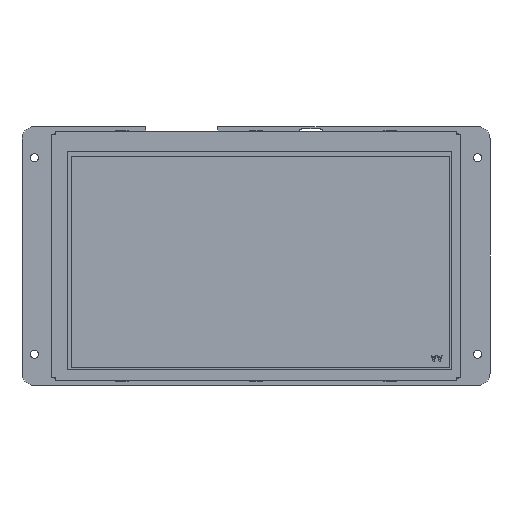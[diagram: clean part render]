
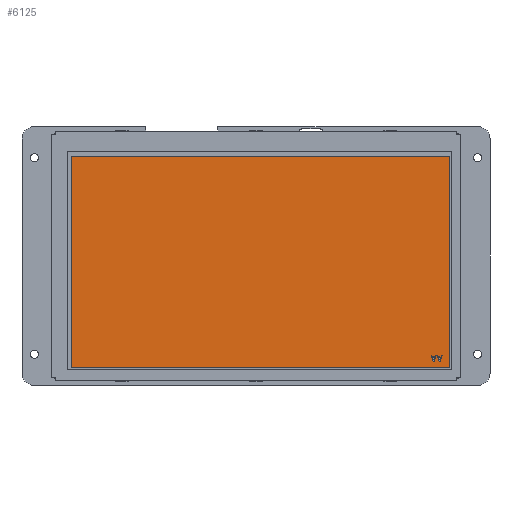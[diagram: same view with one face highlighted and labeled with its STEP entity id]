
A CAD part, front view. The second image highlights one B-rep face of the part: STEP entity #6125.
In plain terms, the highlighted planar face has unit normal (0, -1, 0) as drawn and (0, 0, 1) by its records, which use the part's own axes.
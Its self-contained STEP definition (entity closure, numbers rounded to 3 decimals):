
#5384=DIRECTION('',(0.,-1.,0.));
#5385=VECTOR('',#5384,85.92);
#5386=CARTESIAN_POINT('',(42.271,140.369,-0.5));
#5387=LINE('',#5386,#5385);
#5388=DIRECTION('',(-1.,0.,0.));
#5389=VECTOR('',#5388,154.08);
#5390=CARTESIAN_POINT('',(196.351,140.369,-0.5));
#5391=LINE('',#5390,#5389);
#5392=DIRECTION('',(0.,1.,0.));
#5393=VECTOR('',#5392,85.92);
#5394=CARTESIAN_POINT('',(196.351,54.449,-0.5));
#5395=LINE('',#5394,#5393);
#5396=DIRECTION('',(1.,0.,0.));
#5397=VECTOR('',#5396,154.08);
#5398=CARTESIAN_POINT('',(42.271,54.449,-0.5));
#5399=LINE('',#5398,#5397);
#5400=DIRECTION('',(0.316,-0.949,0.));
#5401=VECTOR('',#5400,2.646);
#5402=CARTESIAN_POINT('',(46.526,137.879,-0.5));
#5403=LINE('',#5402,#5401);
#5404=DIRECTION('',(1.,0.,0.));
#5405=VECTOR('',#5404,0.418);
#5406=CARTESIAN_POINT('',(46.108,137.879,-0.5));
#5407=LINE('',#5406,#5405);
#5408=DIRECTION('',(0.316,0.949,0.));
#5409=VECTOR('',#5408,2.646);
#5410=CARTESIAN_POINT('',(45.271,135.369,-0.5));
#5411=LINE('',#5410,#5409);
#5412=DIRECTION('',(-1.,0.,0.));
#5413=VECTOR('',#5412,0.314);
#5414=CARTESIAN_POINT('',(45.585,135.369,-0.5));
#5415=LINE('',#5414,#5413);
#5416=DIRECTION('',(-0.31,-0.951,0.));
#5417=VECTOR('',#5416,0.674);
#5418=CARTESIAN_POINT('',(45.794,136.01,-0.5));
#5419=LINE('',#5418,#5417);
#5420=DIRECTION('',(-1.,0.,0.));
#5421=VECTOR('',#5420,1.046);
#5422=CARTESIAN_POINT('',(46.84,136.01,-0.5));
#5423=LINE('',#5422,#5421);
#5424=DIRECTION('',(-0.31,0.951,0.));
#5425=VECTOR('',#5424,0.674);
#5426=CARTESIAN_POINT('',(47.049,135.369,-0.5));
#5427=LINE('',#5426,#5425);
#5428=DIRECTION('',(-1.,0.,0.));
#5429=VECTOR('',#5428,0.314);
#5430=CARTESIAN_POINT('',(47.363,135.369,-0.5));
#5431=LINE('',#5430,#5429);
#5444=DIRECTION('',(0.316,-0.949,0.));
#5445=VECTOR('',#5444,2.646);
#5446=CARTESIAN_POINT('',(49.036,137.879,-0.5));
#5447=LINE('',#5446,#5445);
#5448=DIRECTION('',(1.,0.,0.));
#5449=VECTOR('',#5448,0.418);
#5450=CARTESIAN_POINT('',(48.618,137.879,-0.5));
#5451=LINE('',#5450,#5449);
#5452=DIRECTION('',(0.316,0.949,0.));
#5453=VECTOR('',#5452,2.646);
#5454=CARTESIAN_POINT('',(47.781,135.369,-0.5));
#5455=LINE('',#5454,#5453);
#5456=DIRECTION('',(-1.,0.,0.));
#5457=VECTOR('',#5456,0.314);
#5458=CARTESIAN_POINT('',(48.095,135.369,-0.5));
#5459=LINE('',#5458,#5457);
#5460=DIRECTION('',(-0.31,-0.951,0.));
#5461=VECTOR('',#5460,0.674);
#5462=CARTESIAN_POINT('',(48.304,136.01,-0.5));
#5463=LINE('',#5462,#5461);
#5464=DIRECTION('',(-1.,0.,0.));
#5465=VECTOR('',#5464,1.046);
#5466=CARTESIAN_POINT('',(49.35,136.01,-0.5));
#5467=LINE('',#5466,#5465);
#5468=DIRECTION('',(-0.31,0.951,0.));
#5469=VECTOR('',#5468,0.674);
#5470=CARTESIAN_POINT('',(49.559,135.369,-0.5));
#5471=LINE('',#5470,#5469);
#5472=DIRECTION('',(-1.,0.,0.));
#5473=VECTOR('',#5472,0.314);
#5474=CARTESIAN_POINT('',(49.873,135.369,-0.5));
#5475=LINE('',#5474,#5473);
#5624=CARTESIAN_POINT('',(42.271,140.369,-0.5));
#5625=CARTESIAN_POINT('',(42.271,54.449,-0.5));
#5626=VERTEX_POINT('',#5624);
#5627=VERTEX_POINT('',#5625);
#5628=CARTESIAN_POINT('',(196.351,54.449,-0.5));
#5629=VERTEX_POINT('',#5628);
#5630=CARTESIAN_POINT('',(196.351,140.369,-0.5));
#5631=VERTEX_POINT('',#5630);
#5632=CARTESIAN_POINT('',(46.526,137.879,-0.5));
#5633=CARTESIAN_POINT('',(47.363,135.369,-0.5));
#5634=VERTEX_POINT('',#5632);
#5635=VERTEX_POINT('',#5633);
#5636=CARTESIAN_POINT('',(47.049,135.369,-0.5));
#5637=VERTEX_POINT('',#5636);
#5638=CARTESIAN_POINT('',(46.84,136.01,-0.5));
#5639=VERTEX_POINT('',#5638);
#5640=CARTESIAN_POINT('',(45.794,136.01,-0.5));
#5641=VERTEX_POINT('',#5640);
#5642=CARTESIAN_POINT('',(45.585,135.369,-0.5));
#5643=VERTEX_POINT('',#5642);
#5644=CARTESIAN_POINT('',(45.271,135.369,-0.5));
#5645=VERTEX_POINT('',#5644);
#5646=CARTESIAN_POINT('',(46.108,137.879,-0.5));
#5647=VERTEX_POINT('',#5646);
#5654=CARTESIAN_POINT('',(49.036,137.879,-0.5));
#5655=CARTESIAN_POINT('',(49.873,135.369,-0.5));
#5656=VERTEX_POINT('',#5654);
#5657=VERTEX_POINT('',#5655);
#5658=CARTESIAN_POINT('',(49.559,135.369,-0.5));
#5659=VERTEX_POINT('',#5658);
#5660=CARTESIAN_POINT('',(49.35,136.01,-0.5));
#5661=VERTEX_POINT('',#5660);
#5662=CARTESIAN_POINT('',(48.304,136.01,-0.5));
#5663=VERTEX_POINT('',#5662);
#5664=CARTESIAN_POINT('',(48.095,135.369,-0.5));
#5665=VERTEX_POINT('',#5664);
#5666=CARTESIAN_POINT('',(47.781,135.369,-0.5));
#5667=VERTEX_POINT('',#5666);
#5668=CARTESIAN_POINT('',(48.618,137.879,-0.5));
#5669=VERTEX_POINT('',#5668);
#6078=CARTESIAN_POINT('',(0.,0.,-0.5));
#6079=DIRECTION('',(0.,0.,1.));
#6080=DIRECTION('',(1.,0.,0.));
#6081=AXIS2_PLACEMENT_3D('',#6078,#6079,#6080);
#6082=PLANE('',#6081);
#6083=ORIENTED_EDGE('',*,*,#6030,.F.);
#6084=ORIENTED_EDGE('',*,*,#6045,.F.);
#6085=ORIENTED_EDGE('',*,*,#6059,.F.);
#6086=ORIENTED_EDGE('',*,*,#6072,.F.);
#6087=EDGE_LOOP('',(#6083,#6084,#6085,#6086));
#6088=FACE_OUTER_BOUND('',#6087,.F.);
#6090=ORIENTED_EDGE('',*,*,#6089,.F.);
#6092=ORIENTED_EDGE('',*,*,#6091,.F.);
#6094=ORIENTED_EDGE('',*,*,#6093,.F.);
#6096=ORIENTED_EDGE('',*,*,#6095,.F.);
#6098=ORIENTED_EDGE('',*,*,#6097,.F.);
#6100=ORIENTED_EDGE('',*,*,#6099,.F.);
#6102=ORIENTED_EDGE('',*,*,#6101,.F.);
#6104=ORIENTED_EDGE('',*,*,#6103,.F.);
#6105=EDGE_LOOP('',(#6090,#6092,#6094,#6096,#6098,#6100,#6102,#6104));
#6106=FACE_BOUND('',#6105,.F.);
#6108=ORIENTED_EDGE('',*,*,#6107,.F.);
#6110=ORIENTED_EDGE('',*,*,#6109,.F.);
#6112=ORIENTED_EDGE('',*,*,#6111,.F.);
#6114=ORIENTED_EDGE('',*,*,#6113,.F.);
#6116=ORIENTED_EDGE('',*,*,#6115,.F.);
#6118=ORIENTED_EDGE('',*,*,#6117,.F.);
#6120=ORIENTED_EDGE('',*,*,#6119,.F.);
#6122=ORIENTED_EDGE('',*,*,#6121,.F.);
#6123=EDGE_LOOP('',(#6108,#6110,#6112,#6114,#6116,#6118,#6120,#6122));
#6124=FACE_BOUND('',#6123,.F.);
#6030=EDGE_CURVE('',#5626,#5627,#5387,.T.);
#6045=EDGE_CURVE('',#5631,#5626,#5391,.T.);
#6059=EDGE_CURVE('',#5629,#5631,#5395,.T.);
#6072=EDGE_CURVE('',#5627,#5629,#5399,.T.);
#6089=EDGE_CURVE('',#5634,#5635,#5403,.T.);
#6091=EDGE_CURVE('',#5647,#5634,#5407,.T.);
#6093=EDGE_CURVE('',#5645,#5647,#5411,.T.);
#6095=EDGE_CURVE('',#5643,#5645,#5415,.T.);
#6097=EDGE_CURVE('',#5641,#5643,#5419,.T.);
#6099=EDGE_CURVE('',#5639,#5641,#5423,.T.);
#6101=EDGE_CURVE('',#5637,#5639,#5427,.T.);
#6103=EDGE_CURVE('',#5635,#5637,#5431,.T.);
#6107=EDGE_CURVE('',#5656,#5657,#5447,.T.);
#6109=EDGE_CURVE('',#5669,#5656,#5451,.T.);
#6111=EDGE_CURVE('',#5667,#5669,#5455,.T.);
#6113=EDGE_CURVE('',#5665,#5667,#5459,.T.);
#6115=EDGE_CURVE('',#5663,#5665,#5463,.T.);
#6117=EDGE_CURVE('',#5661,#5663,#5467,.T.);
#6119=EDGE_CURVE('',#5659,#5661,#5471,.T.);
#6121=EDGE_CURVE('',#5657,#5659,#5475,.T.);
#6125=ADVANCED_FACE('',(#6088,#6106,#6124),#6082,.T.);
